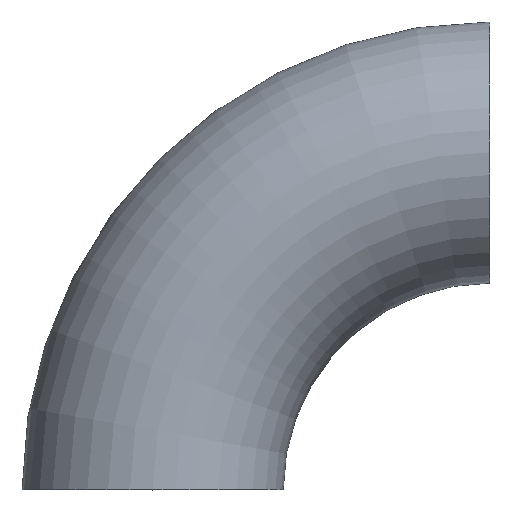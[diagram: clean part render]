
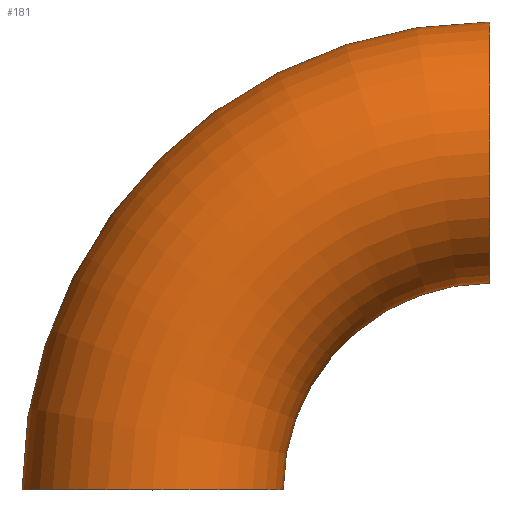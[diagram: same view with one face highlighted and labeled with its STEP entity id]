
A CAD part, top view. The second image highlights one B-rep face of the part: STEP entity #181.
In plain terms, the highlighted toroidal (fillet/blend) face has major radius 27.5 mm and minor radius 10.65 mm.
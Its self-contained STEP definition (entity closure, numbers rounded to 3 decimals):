
#6 = CARTESIAN_POINT ( 'NONE',  ( 10.65, 0., 0. ) ) ;
#9 = CARTESIAN_POINT ( 'NONE',  ( 27.5, 27.5, 0. ) ) ;
#11 = CARTESIAN_POINT ( 'NONE',  ( 0., 0., 0. ) ) ;
#36 = AXIS2_PLACEMENT_3D ( 'NONE', #11, #188, #73 ) ;
#39 = VERTEX_POINT ( 'NONE', #6 ) ;
#52 = VERTEX_POINT ( 'NONE', #100 ) ;
#54 = DIRECTION ( 'NONE',  ( 1., 0., 0. ) ) ;
#56 = CARTESIAN_POINT ( 'NONE',  ( 27.5, 0., 0. ) ) ;
#60 = CIRCLE ( 'NONE', #36, 10.65 ) ;
#61 = EDGE_LOOP ( 'NONE', ( #169, #176, #208, #234 ) ) ;
#66 = AXIS2_PLACEMENT_3D ( 'NONE', #248, #103, #160 ) ;
#67 = DIRECTION ( 'NONE',  ( 1., 0., 0. ) ) ;
#73 = DIRECTION ( 'NONE',  ( 0., 0., 1. ) ) ;
#83 = EDGE_CURVE ( 'NONE', #52, #39, #142, .T. ) ;
#89 = DIRECTION ( 'NONE',  ( 0., 0., 1. ) ) ;
#91 = CARTESIAN_POINT ( 'NONE',  ( -10.65, 0., 0. ) ) ;
#100 = CARTESIAN_POINT ( 'NONE',  ( 27.5, 16.85, 0. ) ) ;
#101 = EDGE_CURVE ( 'NONE', #131, #52, #157, .T. ) ;
#103 = DIRECTION ( 'NONE',  ( 0., 0., 1. ) ) ;
#131 = VERTEX_POINT ( 'NONE', #225 ) ;
#132 = AXIS2_PLACEMENT_3D ( 'NONE', #149, #206, #54 ) ;
#134 = AXIS2_PLACEMENT_3D ( 'NONE', #56, #249, #67 ) ;
#142 = CIRCLE ( 'NONE', #66, 16.85 ) ;
#149 = CARTESIAN_POINT ( 'NONE',  ( 27.5, 0., 0. ) ) ;
#157 = CIRCLE ( 'NONE', #205, 10.65 ) ;
#160 = DIRECTION ( 'NONE',  ( 1., 0., 0. ) ) ;
#169 = ORIENTED_EDGE ( 'NONE', *, *, #101, .F. ) ;
#176 = ORIENTED_EDGE ( 'NONE', *, *, #251, .T. ) ;
#181 = ADVANCED_FACE ( 'NONE', ( #190 ), #185, .T. ) ;
#185 = TOROIDAL_SURFACE ( 'NONE', #132, 27.5, 10.65 ) ;
#188 = DIRECTION ( 'NONE',  ( 0., 1., 0. ) ) ;
#190 = FACE_OUTER_BOUND ( 'NONE', #61, .T. ) ;
#193 = CIRCLE ( 'NONE', #134, 38.15 ) ;
#195 = VERTEX_POINT ( 'NONE', #91 ) ;
#205 = AXIS2_PLACEMENT_3D ( 'NONE', #9, #226, #89 ) ;
#206 = DIRECTION ( 'NONE',  ( 0., 0., 1. ) ) ;
#208 = ORIENTED_EDGE ( 'NONE', *, *, #244, .T. ) ;
#225 = CARTESIAN_POINT ( 'NONE',  ( 27.5, 38.15, 0. ) ) ;
#226 = DIRECTION ( 'NONE',  ( 1., 0., 0. ) ) ;
#234 = ORIENTED_EDGE ( 'NONE', *, *, #83, .F. ) ;
#244 = EDGE_CURVE ( 'NONE', #195, #39, #60, .T. ) ;
#248 = CARTESIAN_POINT ( 'NONE',  ( 27.5, 0., 0. ) ) ;
#249 = DIRECTION ( 'NONE',  ( 0., 0., 1. ) ) ;
#251 = EDGE_CURVE ( 'NONE', #131, #195, #193, .T. ) ;
